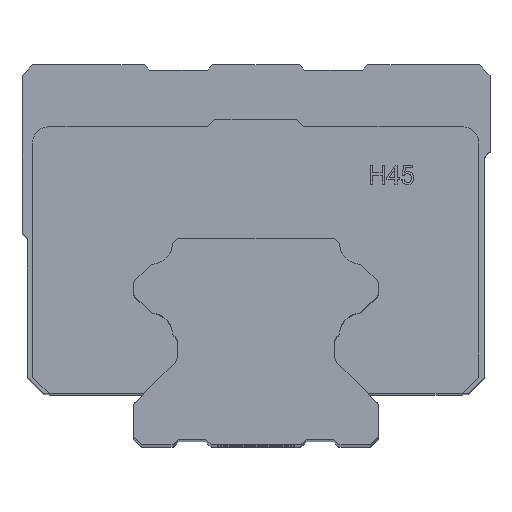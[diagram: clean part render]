
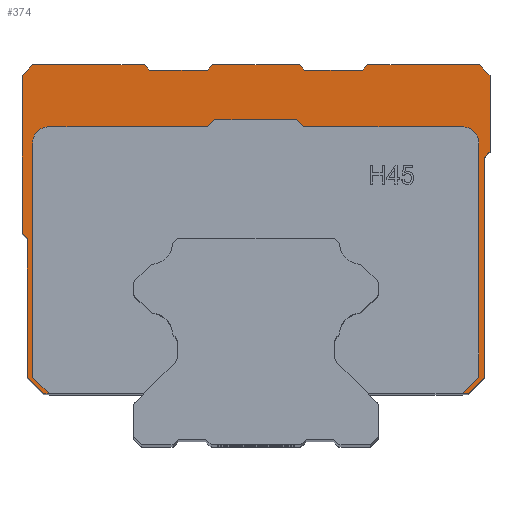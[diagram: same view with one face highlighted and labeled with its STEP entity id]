
A CAD part, top view. The second image highlights one B-rep face of the part: STEP entity #374.
In plain terms, the highlighted planar face has unit normal (0, 0, 1).
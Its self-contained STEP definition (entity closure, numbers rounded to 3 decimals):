
#374=ADVANCED_FACE('',(#673),#519,.T.);
#519=PLANE('',#3629);
#673=FACE_OUTER_BOUND('',#863,.T.);
#863=EDGE_LOOP('',(#1631,#1632,#1633,#1634,#1635,#1636,#1637,#1638,#1639,
#1640,#1641,#1642,#1643,#1644,#1645,#1646,#1647,#1648,#1649,#1650,#1651,
#1652,#1653,#1654,#1655,#1656,#1657,#1658,#1659,#1660,#1661,#1662));
#1024=CIRCLE('',#3627,3.);
#1025=CIRCLE('',#3628,3.);
#1631=ORIENTED_EDGE('',*,*,#2662,.F.);
#1632=ORIENTED_EDGE('',*,*,#2654,.T.);
#1633=ORIENTED_EDGE('',*,*,#2663,.T.);
#1634=ORIENTED_EDGE('',*,*,#2664,.T.);
#1635=ORIENTED_EDGE('',*,*,#2665,.T.);
#1636=ORIENTED_EDGE('',*,*,#2666,.T.);
#1637=ORIENTED_EDGE('',*,*,#2667,.T.);
#1638=ORIENTED_EDGE('',*,*,#2668,.T.);
#1639=ORIENTED_EDGE('',*,*,#2669,.T.);
#1640=ORIENTED_EDGE('',*,*,#2670,.T.);
#1641=ORIENTED_EDGE('',*,*,#2671,.T.);
#1642=ORIENTED_EDGE('',*,*,#2672,.T.);
#1643=ORIENTED_EDGE('',*,*,#2673,.T.);
#1644=ORIENTED_EDGE('',*,*,#2674,.T.);
#1645=ORIENTED_EDGE('',*,*,#2675,.T.);
#1646=ORIENTED_EDGE('',*,*,#2676,.T.);
#1647=ORIENTED_EDGE('',*,*,#2677,.T.);
#1648=ORIENTED_EDGE('',*,*,#2678,.T.);
#1649=ORIENTED_EDGE('',*,*,#2679,.T.);
#1650=ORIENTED_EDGE('',*,*,#2680,.T.);
#1651=ORIENTED_EDGE('',*,*,#2681,.T.);
#1652=ORIENTED_EDGE('',*,*,#2595,.T.);
#1653=ORIENTED_EDGE('',*,*,#2682,.F.);
#1654=ORIENTED_EDGE('',*,*,#2683,.F.);
#1655=ORIENTED_EDGE('',*,*,#2684,.F.);
#1656=ORIENTED_EDGE('',*,*,#2685,.F.);
#1657=ORIENTED_EDGE('',*,*,#2686,.F.);
#1658=ORIENTED_EDGE('',*,*,#2687,.F.);
#1659=ORIENTED_EDGE('',*,*,#2688,.F.);
#1660=ORIENTED_EDGE('',*,*,#2689,.F.);
#1661=ORIENTED_EDGE('',*,*,#2690,.F.);
#1662=ORIENTED_EDGE('',*,*,#2661,.F.);
#2214=VERTEX_POINT('',#5225);
#2215=VERTEX_POINT('',#5227);
#2244=VERTEX_POINT('',#5342);
#2245=VERTEX_POINT('',#5344);
#2247=VERTEX_POINT('',#5354);
#2248=VERTEX_POINT('',#5356);
#2249=VERTEX_POINT('',#5361);
#2250=VERTEX_POINT('',#5363);
#2251=VERTEX_POINT('',#5365);
#2252=VERTEX_POINT('',#5367);
#2253=VERTEX_POINT('',#5369);
#2254=VERTEX_POINT('',#5371);
#2255=VERTEX_POINT('',#5373);
#2256=VERTEX_POINT('',#5375);
#2257=VERTEX_POINT('',#5377);
#2258=VERTEX_POINT('',#5379);
#2259=VERTEX_POINT('',#5381);
#2260=VERTEX_POINT('',#5383);
#2261=VERTEX_POINT('',#5385);
#2262=VERTEX_POINT('',#5387);
#2263=VERTEX_POINT('',#5389);
#2264=VERTEX_POINT('',#5391);
#2265=VERTEX_POINT('',#5393);
#2266=VERTEX_POINT('',#5395);
#2267=VERTEX_POINT('',#5398);
#2268=VERTEX_POINT('',#5400);
#2269=VERTEX_POINT('',#5402);
#2270=VERTEX_POINT('',#5404);
#2271=VERTEX_POINT('',#5406);
#2272=VERTEX_POINT('',#5408);
#2273=VERTEX_POINT('',#5410);
#2274=VERTEX_POINT('',#5412);
#2595=EDGE_CURVE('',#2215,#2214,#2982,.T.);
#2654=EDGE_CURVE('',#2245,#2244,#3029,.T.);
#2661=EDGE_CURVE('',#2248,#2247,#3036,.T.);
#2662=EDGE_CURVE('',#2245,#2248,#3037,.T.);
#2663=EDGE_CURVE('',#2244,#2249,#3038,.T.);
#2664=EDGE_CURVE('',#2249,#2250,#3039,.T.);
#2665=EDGE_CURVE('',#2250,#2251,#3040,.T.);
#2666=EDGE_CURVE('',#2251,#2252,#3041,.T.);
#2667=EDGE_CURVE('',#2252,#2253,#3042,.T.);
#2668=EDGE_CURVE('',#2253,#2254,#3043,.T.);
#2669=EDGE_CURVE('',#2254,#2255,#3044,.T.);
#2670=EDGE_CURVE('',#2255,#2256,#3045,.T.);
#2671=EDGE_CURVE('',#2256,#2257,#3046,.T.);
#2672=EDGE_CURVE('',#2257,#2258,#3047,.T.);
#2673=EDGE_CURVE('',#2258,#2259,#3048,.T.);
#2674=EDGE_CURVE('',#2259,#2260,#3049,.T.);
#2675=EDGE_CURVE('',#2260,#2261,#3050,.T.);
#2676=EDGE_CURVE('',#2261,#2262,#3051,.T.);
#2677=EDGE_CURVE('',#2262,#2263,#3052,.T.);
#2678=EDGE_CURVE('',#2263,#2264,#3053,.T.);
#2679=EDGE_CURVE('',#2264,#2265,#3054,.T.);
#2680=EDGE_CURVE('',#2265,#2266,#3055,.T.);
#2681=EDGE_CURVE('',#2266,#2215,#3056,.T.);
#2682=EDGE_CURVE('',#2267,#2214,#3057,.T.);
#2683=EDGE_CURVE('',#2268,#2267,#3058,.T.);
#2684=EDGE_CURVE('',#2269,#2268,#1024,.T.);
#2685=EDGE_CURVE('',#2270,#2269,#3059,.T.);
#2686=EDGE_CURVE('',#2271,#2270,#3060,.T.);
#2687=EDGE_CURVE('',#2272,#2271,#3061,.T.);
#2688=EDGE_CURVE('',#2273,#2272,#3062,.T.);
#2689=EDGE_CURVE('',#2274,#2273,#3063,.T.);
#2690=EDGE_CURVE('',#2247,#2274,#1025,.T.);
#2982=LINE('',#5226,#3304);
#3029=LINE('',#5343,#3351);
#3036=LINE('',#5357,#3358);
#3037=LINE('',#5359,#3359);
#3038=LINE('',#5360,#3360);
#3039=LINE('',#5362,#3361);
#3040=LINE('',#5364,#3362);
#3041=LINE('',#5366,#3363);
#3042=LINE('',#5368,#3364);
#3043=LINE('',#5370,#3365);
#3044=LINE('',#5372,#3366);
#3045=LINE('',#5374,#3367);
#3046=LINE('',#5376,#3368);
#3047=LINE('',#5378,#3369);
#3048=LINE('',#5380,#3370);
#3049=LINE('',#5382,#3371);
#3050=LINE('',#5384,#3372);
#3051=LINE('',#5386,#3373);
#3052=LINE('',#5388,#3374);
#3053=LINE('',#5390,#3375);
#3054=LINE('',#5392,#3376);
#3055=LINE('',#5394,#3377);
#3056=LINE('',#5396,#3378);
#3057=LINE('',#5397,#3379);
#3058=LINE('',#5399,#3380);
#3059=LINE('',#5403,#3381);
#3060=LINE('',#5405,#3382);
#3061=LINE('',#5407,#3383);
#3062=LINE('',#5409,#3384);
#3063=LINE('',#5411,#3385);
#3304=VECTOR('',#4134,1.);
#3351=VECTOR('',#4261,1.);
#3358=VECTOR('',#4274,1.);
#3359=VECTOR('',#4277,1.);
#3360=VECTOR('',#4278,1.);
#3361=VECTOR('',#4279,1.);
#3362=VECTOR('',#4280,1.);
#3363=VECTOR('',#4281,1.);
#3364=VECTOR('',#4282,1.);
#3365=VECTOR('',#4283,1.);
#3366=VECTOR('',#4284,1.);
#3367=VECTOR('',#4285,1.);
#3368=VECTOR('',#4286,1.);
#3369=VECTOR('',#4287,1.);
#3370=VECTOR('',#4288,1.);
#3371=VECTOR('',#4289,1.);
#3372=VECTOR('',#4290,1.);
#3373=VECTOR('',#4291,1.);
#3374=VECTOR('',#4292,1.);
#3375=VECTOR('',#4293,1.);
#3376=VECTOR('',#4294,1.);
#3377=VECTOR('',#4295,1.);
#3378=VECTOR('',#4296,1.);
#3379=VECTOR('',#4297,1.);
#3380=VECTOR('',#4298,1.);
#3381=VECTOR('',#4301,1.);
#3382=VECTOR('',#4302,1.);
#3383=VECTOR('',#4303,1.);
#3384=VECTOR('',#4304,1.);
#3385=VECTOR('',#4305,1.);
#3627=AXIS2_PLACEMENT_3D('',#5401,#4299,#4300);
#3628=AXIS2_PLACEMENT_3D('',#5413,#4306,#4307);
#3629=AXIS2_PLACEMENT_3D('',#5414,#4308,#4309);
#4134=DIRECTION('',(1.,0.,0.));
#4261=DIRECTION('',(1.,0.,0.));
#4274=DIRECTION('',(0.,1.,0.));
#4277=DIRECTION('',(0.707,0.707,0.));
#4278=DIRECTION('',(0.707,0.707,0.));
#4279=DIRECTION('',(0.,1.,0.));
#4280=DIRECTION('',(0.707,0.707,0.));
#4281=DIRECTION('',(0.,1.,0.));
#4282=DIRECTION('',(-0.707,0.707,0.));
#4283=DIRECTION('',(-1.,0.,0.));
#4284=DIRECTION('',(-0.707,-0.707,0.));
#4285=DIRECTION('',(-1.,0.,0.));
#4286=DIRECTION('',(-0.707,0.707,0.));
#4287=DIRECTION('',(-1.,0.,0.));
#4288=DIRECTION('',(-0.707,-0.707,0.));
#4289=DIRECTION('',(-1.,0.,0.));
#4290=DIRECTION('',(-0.707,0.707,0.));
#4291=DIRECTION('',(-1.,0.,0.));
#4292=DIRECTION('',(-0.707,-0.707,0.));
#4293=DIRECTION('',(0.,-1.,0.));
#4294=DIRECTION('',(0.707,-0.707,0.));
#4295=DIRECTION('',(0.,-1.,0.));
#4296=DIRECTION('',(0.707,-0.707,0.));
#4297=DIRECTION('',(0.707,-0.707,0.));
#4298=DIRECTION('',(0.,-1.,0.));
#4299=DIRECTION('',(0.,0.,1.));
#4300=DIRECTION('',(0.,1.,0.));
#4301=DIRECTION('',(-1.,0.,0.));
#4302=DIRECTION('',(-0.707,-0.707,0.));
#4303=DIRECTION('',(-1.,0.,0.));
#4304=DIRECTION('',(-0.707,0.707,0.));
#4305=DIRECTION('',(-1.,0.,0.));
#4306=DIRECTION('',(0.,0.,1.));
#4307=DIRECTION('',(1.,0.,0.));
#4308=DIRECTION('',(0.,0.,1.));
#4309=DIRECTION('',(-1.,0.,0.));
#5225=CARTESIAN_POINT('',(-38.002,-28.5,48.5));
#5226=CARTESIAN_POINT('',(-39.,-28.5,48.5));
#5227=CARTESIAN_POINT('',(-39.,-28.5,48.5));
#5342=CARTESIAN_POINT('',(39.,-28.5,48.5));
#5343=CARTESIAN_POINT('',(37.887,-28.5,48.5));
#5344=CARTESIAN_POINT('',(37.887,-28.5,48.5));
#5354=CARTESIAN_POINT('',(40.943,17.555,48.5));
#5356=CARTESIAN_POINT('',(40.943,-25.445,48.5));
#5357=CARTESIAN_POINT('',(40.943,-25.445,48.5));
#5359=CARTESIAN_POINT('',(37.887,-28.5,48.5));
#5360=CARTESIAN_POINT('',(39.,-28.5,48.5));
#5361=CARTESIAN_POINT('',(42.,-25.5,48.5));
#5362=CARTESIAN_POINT('',(42.,-25.5,48.5));
#5363=CARTESIAN_POINT('',(42.,15.,48.5));
#5364=CARTESIAN_POINT('',(42.,15.,48.5));
#5365=CARTESIAN_POINT('',(43.,16.,48.5));
#5366=CARTESIAN_POINT('',(43.,16.,48.5));
#5367=CARTESIAN_POINT('',(43.,30.,48.5));
#5368=CARTESIAN_POINT('',(43.,30.,48.5));
#5369=CARTESIAN_POINT('',(41.,32.,48.5));
#5370=CARTESIAN_POINT('',(41.,32.,48.5));
#5371=CARTESIAN_POINT('',(20.576,32.,48.5));
#5372=CARTESIAN_POINT('',(20.576,32.,48.5));
#5373=CARTESIAN_POINT('',(19.576,31.,48.5));
#5374=CARTESIAN_POINT('',(19.576,31.,48.5));
#5375=CARTESIAN_POINT('',(8.924,31.,48.5));
#5376=CARTESIAN_POINT('',(8.924,31.,48.5));
#5377=CARTESIAN_POINT('',(7.924,32.,48.5));
#5378=CARTESIAN_POINT('',(7.924,32.,48.5));
#5379=CARTESIAN_POINT('',(-7.924,32.,48.5));
#5380=CARTESIAN_POINT('',(-7.924,32.,48.5));
#5381=CARTESIAN_POINT('',(-8.924,31.,48.5));
#5382=CARTESIAN_POINT('',(-8.924,31.,48.5));
#5383=CARTESIAN_POINT('',(-19.576,31.,48.5));
#5384=CARTESIAN_POINT('',(-19.576,31.,48.5));
#5385=CARTESIAN_POINT('',(-20.576,32.,48.5));
#5386=CARTESIAN_POINT('',(-20.576,32.,48.5));
#5387=CARTESIAN_POINT('',(-41.,32.,48.5));
#5388=CARTESIAN_POINT('',(-41.,32.,48.5));
#5389=CARTESIAN_POINT('',(-43.,30.,48.5));
#5390=CARTESIAN_POINT('',(-43.,30.,48.5));
#5391=CARTESIAN_POINT('',(-43.,1.,48.5));
#5392=CARTESIAN_POINT('',(-43.,1.,48.5));
#5393=CARTESIAN_POINT('',(-42.,0.,48.5));
#5394=CARTESIAN_POINT('',(-42.,0.,48.5));
#5395=CARTESIAN_POINT('',(-42.,-25.5,48.5));
#5396=CARTESIAN_POINT('',(-42.,-25.5,48.5));
#5397=CARTESIAN_POINT('',(-41.057,-25.445,48.5));
#5398=CARTESIAN_POINT('',(-41.057,-25.445,48.5));
#5399=CARTESIAN_POINT('',(-41.057,17.555,48.5));
#5400=CARTESIAN_POINT('',(-41.057,17.555,48.5));
#5401=CARTESIAN_POINT('',(-38.057,17.555,48.5));
#5402=CARTESIAN_POINT('',(-38.057,20.555,48.5));
#5403=CARTESIAN_POINT('',(-8.857,20.555,48.5));
#5404=CARTESIAN_POINT('',(-8.857,20.555,48.5));
#5405=CARTESIAN_POINT('',(-7.557,21.855,48.5));
#5406=CARTESIAN_POINT('',(-7.557,21.855,48.5));
#5407=CARTESIAN_POINT('',(7.443,21.855,48.5));
#5408=CARTESIAN_POINT('',(7.443,21.855,48.5));
#5409=CARTESIAN_POINT('',(8.743,20.555,48.5));
#5410=CARTESIAN_POINT('',(8.743,20.555,48.5));
#5411=CARTESIAN_POINT('',(37.943,20.555,48.5));
#5412=CARTESIAN_POINT('',(37.943,20.555,48.5));
#5413=CARTESIAN_POINT('',(37.943,17.555,48.5));
#5414=CARTESIAN_POINT('',(0.,0.,48.5));
